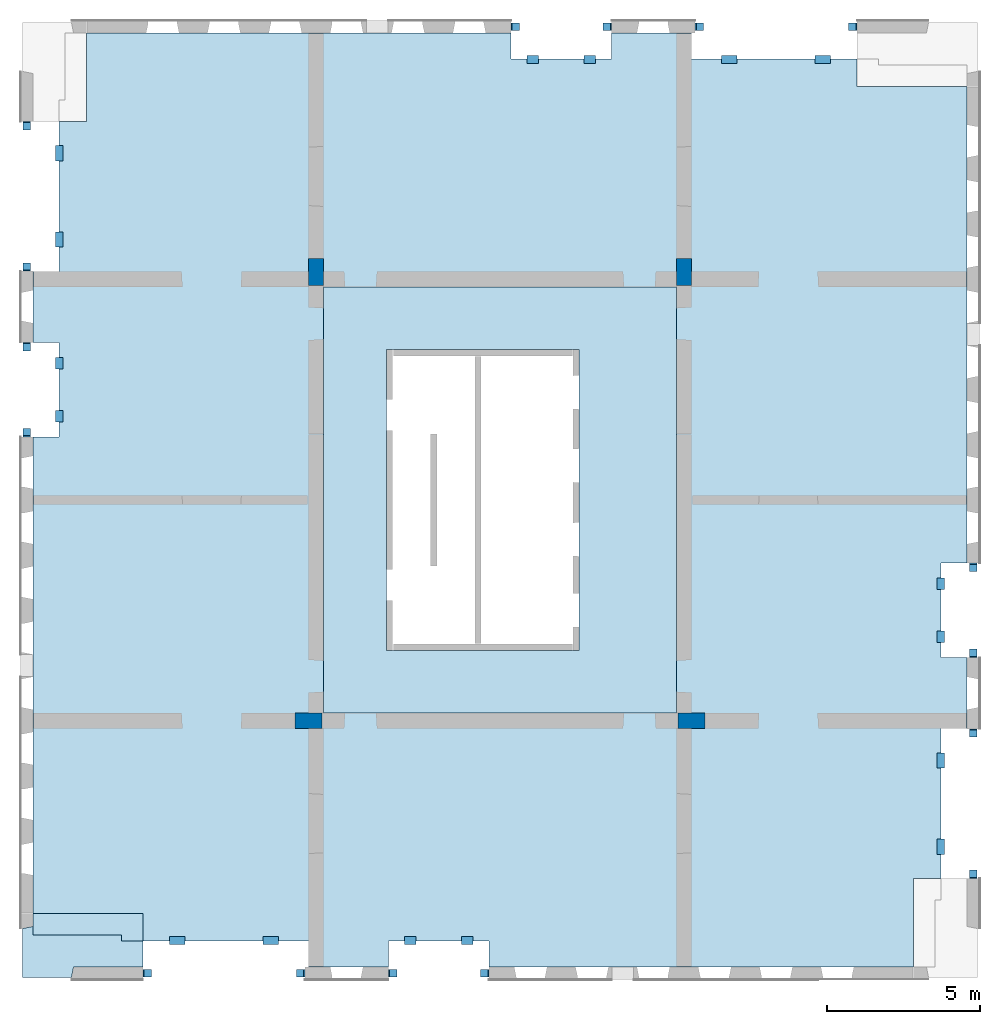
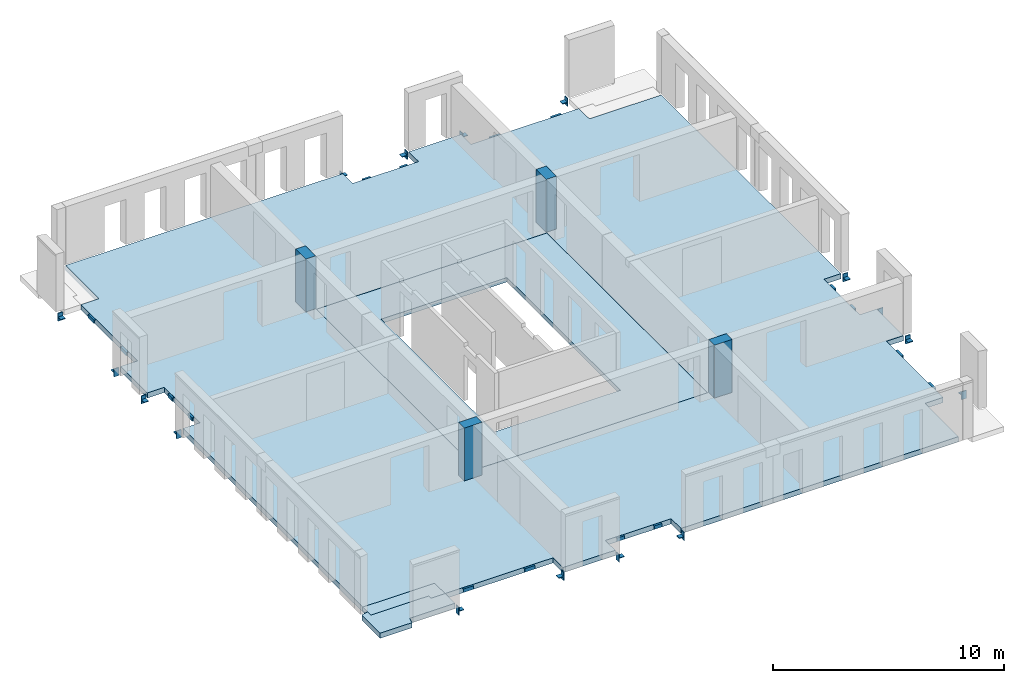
# One storey, part 1 of 5: 32 beams, 4 columns, 4 slabs, 2 openings.
"""IFC2X3 building model written with IfcOpenShell, lengths in millimetres."""

from ifc_helpers import new_model, entity, si_unit, converted_unit, derived_unit, direction, frame, frame_2d, origin, origin_2d_with_axis, place, context, subcontext, project, spatial, polyline, rectangle, outline, extrude, source, transform, mapped, material, layer, layer_set, layer_usage, type_object, type_shapes, element, save


model = new_model("IFC2X3")

# Units and contexts
model_context = context("Model", 3, precision=0.01, world=origin(), true_north=direction((6.12303176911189e-17, 1.0)))
body_context = subcontext(model_context, "Body", "Model", "MODEL_VIEW")
ifc_project = project(units=[si_unit("LENGTHUNIT", "METRE", prefix="MILLI"), si_unit("AREAUNIT", "SQUARE_METRE"), si_unit("VOLUMEUNIT", "CUBIC_METRE"), converted_unit("PLANEANGLEUNIT", "DEGREE", entity("IfcRatioMeasure", 0.0174532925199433), si_unit("PLANEANGLEUNIT", "RADIAN"), dimensions=[0, 0, 0, 0, 0, 0, 0]), si_unit("MASSUNIT", "GRAM", prefix="KILO"), derived_unit("MASSDENSITYUNIT", [(si_unit("MASSUNIT", "GRAM", prefix="KILO"), 1), (si_unit("LENGTHUNIT", "METRE"), -3)]), si_unit("TIMEUNIT", "SECOND"), si_unit("FREQUENCYUNIT", "HERTZ"), si_unit("THERMODYNAMICTEMPERATUREUNIT", "DEGREE_CELSIUS"), derived_unit("THERMALTRANSMITTANCEUNIT", [(si_unit("MASSUNIT", "GRAM", prefix="KILO"), 1), (si_unit("THERMODYNAMICTEMPERATUREUNIT", "KELVIN"), -1), (si_unit("TIMEUNIT", "SECOND"), -3)]), derived_unit("VOLUMETRICFLOWRATEUNIT", [(si_unit("LENGTHUNIT", "METRE"), 3), (si_unit("TIMEUNIT", "SECOND"), -1)]), si_unit("ELECTRICCURRENTUNIT", "AMPERE"), si_unit("ELECTRICVOLTAGEUNIT", "VOLT"), si_unit("POWERUNIT", "WATT"), si_unit("FORCEUNIT", "NEWTON", prefix="KILO"), si_unit("ILLUMINANCEUNIT", "LUX"), si_unit("LUMINOUSFLUXUNIT", "LUMEN"), si_unit("LUMINOUSINTENSITYUNIT", "CANDELA"), derived_unit("USERDEFINED", [(si_unit("MASSUNIT", "GRAM", prefix="KILO"), -1), (si_unit("LENGTHUNIT", "METRE"), -2), (si_unit("TIMEUNIT", "SECOND"), 3), (si_unit("LUMINOUSFLUXUNIT", "LUMEN"), 1)]), derived_unit("LINEARVELOCITYUNIT", [(si_unit("LENGTHUNIT", "METRE"), 1), (si_unit("TIMEUNIT", "SECOND"), -1)]), si_unit("PRESSUREUNIT", "PASCAL"), derived_unit("USERDEFINED", [(si_unit("LENGTHUNIT", "METRE"), -2), (si_unit("MASSUNIT", "GRAM", prefix="KILO"), 1), (si_unit("TIMEUNIT", "SECOND"), -2)])], contexts=[model_context])

# Site, building, storey
site_placement = place(None, origin())
site = spatial("IfcSite", under=ifc_project, at=site_placement, Name="Default", CompositionType="ELEMENT")
building_placement = place(site_placement, origin())
building = spatial("IfcBuilding", under=site, at=building_placement, Name="niet gebruiken", CompositionType="ELEMENT")
storey_placement = place(building_placement, frame((0.0, 0.0, 27180.0)))
storey = spatial("IfcBuildingStorey", under=building, at=storey_placement, Name="08 achtste verdieping", CompositionType="ELEMENT", Elevation=27180.0)

# Columns
ifc_material_1 = material(Name="NLRS_f2_beton ihwg")
column_type_1 = type_object("IfcColumnType", Name="500x880", PredefinedType="COLUMN", material=ifc_material_1)
shared_shape_1 = source(origin(), body_context, "Body", "SweptSolid", [
    extrude(rectangle(XDim=879.999999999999, YDim=500.000000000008, at=origin_2d_with_axis()), frame((135750.003540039, 24940.0, 27090.0), z_axis=(0.0, 0.0, 1.0), x_axis=(0.0, -1.0, 0.0)), (0.0, 0.0, 1.0), 2790.00000000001),
])
type_shapes(column_type_1, [shared_shape_1])
column_1_placement = place(storey_placement, frame((0.0, 0.0, -27180.0)))
element("IfcColumn", 1, at=column_1_placement, inside=storey, type_object=column_type_1, material=ifc_material_1, Name="NLRS_28.11_SCO_TLB_beton kolom ihwg_gen:500x880", ObjectType="500x880", context=body_context, shape_type="MappedRepresentation", body=[
    mapped(shared_shape_1, transform((0.0, 0.0, 0.0), scale=1.0)),
])
column_type_2 = type_object("IfcColumnType", Name="500x880", PredefinedType="COLUMN", material=ifc_material_1)
shared_shape_2 = source(origin(), body_context, "Body", "SweptSolid", [
    extrude(rectangle(XDim=879.999999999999, YDim=500.000000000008, at=origin_2d_with_axis()), frame((147750.0, 24940.0, 27090.0), z_axis=(0.0, 0.0, 1.0), x_axis=(0.0, -1.0, 0.0)), (0.0, 0.0, 1.0), 2790.00000000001),
])
type_shapes(column_type_2, [shared_shape_2])
column_2_placement = place(storey_placement, frame((0.0, 0.0, -27180.0)))
element("IfcColumn", 2, at=column_2_placement, inside=storey, type_object=column_type_2, material=ifc_material_1, Name="NLRS_28.11_SCO_TLB_beton kolom ihwg_gen:500x880", ObjectType="500x880", context=body_context, shape_type="MappedRepresentation", body=[
    mapped(shared_shape_2, transform((0.0, 0.0, 0.0), scale=1.0)),
])
column_type_3 = type_object("IfcColumnType", Name="500x880", PredefinedType="COLUMN", material=ifc_material_1)
shared_shape_3 = source(origin(), body_context, "Body", "SweptSolid", [
    extrude(rectangle(XDim=500.000000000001, YDim=880.000000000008, at=origin_2d_with_axis()), frame((135510.003540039, 10300.0115507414, 27090.0), z_axis=(0.0, 0.0, 1.0), x_axis=(0.0, -1.0, 0.0)), (0.0, 0.0, 1.0), 2790.00000000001),
])
type_shapes(column_type_3, [shared_shape_3])
column_3_placement = place(storey_placement, frame((0.0, 0.0, -27180.0)))
element("IfcColumn", 3, at=column_3_placement, inside=storey, type_object=column_type_3, material=ifc_material_1, Name="NLRS_28.11_SCO_TLB_beton kolom ihwg_gen:500x880", ObjectType="500x880", context=body_context, shape_type="MappedRepresentation", body=[
    mapped(shared_shape_3, transform((0.0, 0.0, 0.0), scale=1.0)),
])
column_type_4 = type_object("IfcColumnType", Name="500x880", PredefinedType="COLUMN", material=ifc_material_1)
shared_shape_4 = source(origin(), body_context, "Body", "SweptSolid", [
    extrude(rectangle(XDim=500.000000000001, YDim=880.000000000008, at=origin_2d_with_axis()), frame((147990.0, 10300.0, 27090.0), z_axis=(0.0, 0.0, 1.0), x_axis=(0.0, -1.0, 0.0)), (0.0, 0.0, 1.0), 2790.00000000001),
])
type_shapes(column_type_4, [shared_shape_4])
column_4_placement = place(storey_placement, frame((0.0, 0.0, -27180.0)))
element("IfcColumn", 4, at=column_4_placement, inside=storey, type_object=column_type_4, material=ifc_material_1, Name="NLRS_28.11_SCO_TLB_beton kolom ihwg_gen:500x880", ObjectType="500x880", context=body_context, shape_type="MappedRepresentation", body=[
    mapped(shared_shape_4, transform((0.0, 0.0, 0.0), scale=1.0)),
])

# Beams
ifc_material_2 = material(Name="NLRS_h2_staal")
beam_type_1 = type_object("IfcBeamType", Name="NLRS_28.11_SF_WPB_stalen schoen 1_gen", PredefinedType="BEAM", material=ifc_material_2)
shared_shape_5 = source(origin(), body_context, "Body", "SweptSolid", [
    extrude(outline(polyline([(-39.5000000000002, -20.5000000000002), (-1.50000000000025, -20.5000000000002), (20.5000000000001, 1.50000000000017), (20.5000000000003, 39.5000000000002), (-39.5000000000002, -20.5000000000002)])), frame((-77.5000000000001, -84.4999999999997, -55.5000000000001), z_axis=(1.0, 0.0, 0.0), x_axis=(0.0, -1.0, 0.0)), (0.0, 0.0, 1.0), 35.0),
    extrude(outline(polyline([(-39.5000000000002, -20.5000000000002), (-1.50000000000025, -20.5000000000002), (20.5000000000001, 1.50000000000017), (20.5000000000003, 39.5000000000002), (-39.5000000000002, -20.5000000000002)])), frame((42.5000000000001, -84.4999999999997, -55.5000000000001), z_axis=(1.0, 0.0, 0.0), x_axis=(0.0, -1.0, 0.0)), (0.0, 0.0, 1.0), 35.0),
    extrude(rectangle(XDim=235.0, YDim=34.9999999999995, at=frame_2d((0.0, 8.88178419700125e-15), x_axis=(1.0, 0.0))), frame((0.0, -122.5, -230.0), z_axis=(0.0, 0.0, 1.0), x_axis=(-1.0, 0.0, 0.0)), (0.0, 0.0, 1.0), 420.0),
    extrude(rectangle(XDim=235.0, YDim=240.0, at=origin_2d_with_axis()), frame((0.0, 15.0, -35.0), z_axis=(0.0, 0.0, 1.0), x_axis=(-1.0, 0.0, 0.0)), (0.0, 0.0, 1.0), 35.0),
])
type_shapes(beam_type_1, [shared_shape_5])
beam_1_placement = place(storey_placement, frame((157180.0, 12500.0, -310.0)))
element("IfcBeam", 5, at=beam_1_placement, inside=storey, type_object=beam_type_1, material=ifc_material_2, Name="NLRS_28.11_SF_WPB_stalen schoen 1_gen:NLRS_28.11_SF_WPB_stalen schoen 1_gen", ObjectType="NLRS_28.11_SF_WPB_stalen schoen 1_gen", context=body_context, shape_type="MappedRepresentation", body=[
    mapped(shared_shape_5, transform((0.0, 0.0, 0.0), scale=1.0)),
])
for number, where, z_axis, x_axis, name in (
    (6, (126320.0, 22500.0, -310.0), (0.0, 0.0, 1.0), (-1.0, 0.0, 0.0), "NLRS_28.11_SF_WPB_stalen schoen 1_gen:NLRS_28.11_SF_WPB_stalen schoen 1_gen"),
    (7, (157180.0, 15300.0, -310.0), (0.0, 0.0, 1.0), (-1.0, 0.0, 0.0), "NLRS_28.11_SF_WPB_stalen schoen 1_gen:NLRS_28.11_SF_WPB_stalen schoen 1_gen"),
):
    element("IfcBeam", number, at=place(storey_placement, frame(where, z_axis=z_axis, x_axis=x_axis)), inside=storey, type_object=beam_type_1, material=ifc_material_2, Name=name, ObjectType="NLRS_28.11_SF_WPB_stalen schoen 1_gen", context=body_context, shape_type="MappedRepresentation", body=[
        mapped(shared_shape_5, transform((0.0, 0.0, 0.0), scale=1.0)),
    ])
beam_2_placement = place(storey_placement, frame((126320.0, 19700.0, -310.0)))
element("IfcBeam", 8, at=beam_2_placement, inside=storey, type_object=beam_type_1, material=ifc_material_2, Name="NLRS_28.11_SF_WPB_stalen schoen 1_gen:NLRS_28.11_SF_WPB_stalen schoen 1_gen", ObjectType="NLRS_28.11_SF_WPB_stalen schoen 1_gen", context=body_context, shape_type="MappedRepresentation", body=[
    mapped(shared_shape_5, transform((0.0, 0.0, 0.0), scale=1.0)),
])
for number, where, z_axis, x_axis, name in (
    (9, (138250.0, 2070.0, -310.0), (0.0, 0.0, 1.0), (0.0, -1.0, 0.0), "NLRS_28.11_SF_WPB_stalen schoen 1_gen:NLRS_28.11_SF_WPB_stalen schoen 1_gen"),
    (10, (141250.0, 2070.0, -310.0), (0.0, 0.0, 1.0), (0.0, 1.0, 0.0), "NLRS_28.11_SF_WPB_stalen schoen 1_gen:NLRS_28.11_SF_WPB_stalen schoen 1_gen"),
    (11, (145250.0, 32930.0, -310.0), (0.0, 0.0, 1.0), (0.0, 1.0, 0.0), "NLRS_28.11_SF_WPB_stalen schoen 1_gen:NLRS_28.11_SF_WPB_stalen schoen 1_gen"),
    (12, (142250.0, 32930.0, -310.0), (0.0, 0.0, 1.0), (0.0, -1.0, 0.0), "NLRS_28.11_SF_WPB_stalen schoen 1_gen:NLRS_28.11_SF_WPB_stalen schoen 1_gen"),
):
    element("IfcBeam", number, at=place(storey_placement, frame(where, z_axis=z_axis, x_axis=x_axis)), inside=storey, type_object=beam_type_1, material=ifc_material_2, Name=name, ObjectType="NLRS_28.11_SF_WPB_stalen schoen 1_gen", context=body_context, shape_type="MappedRepresentation", body=[
        mapped(shared_shape_5, transform((0.0, 0.0, 0.0), scale=1.0)),
    ])
beam_type_2 = type_object("IfcBeamType", Name="NLRS_28.11_SF_WPB_stalen schoen 2_gen", PredefinedType="BEAM", material=ifc_material_2)
shared_shape_6 = source(origin(), body_context, "Body", "SweptSolid", [
    extrude(outline(polyline([(-39.5000000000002, -20.5000000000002), (-1.50000000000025, -20.5000000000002), (20.5000000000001, 1.50000000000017), (20.5000000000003, 39.5000000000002), (-39.5000000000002, -20.5000000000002)])), frame((-77.5000000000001, -79.4999999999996, -60.5000000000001), z_axis=(1.0, 0.0, 0.0), x_axis=(0.0, -1.0, 0.0)), (0.0, 0.0, 1.0), 35.0),
    extrude(outline(polyline([(-39.5000000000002, -20.5000000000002), (-1.50000000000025, -20.5000000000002), (20.5000000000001, 1.50000000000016), (20.5000000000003, 39.5000000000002), (-39.5000000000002, -20.5000000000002)])), frame((42.5000000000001, -79.4999999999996, -60.5000000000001), z_axis=(1.0, 0.0, 0.0), x_axis=(0.0, -1.0, 0.0)), (0.0, 0.0, 1.0), 35.0),
    extrude(rectangle(XDim=235.0, YDim=39.9999999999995, at=frame_2d((0.0, 8.88178419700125e-15), x_axis=(1.0, 0.0))), frame((0.0, -120.0, -230.0), z_axis=(0.0, 0.0, 1.0), x_axis=(-1.0, 0.0, 0.0)), (0.0, 0.0, 1.0), 420.0),
    extrude(rectangle(XDim=235.0, YDim=235.0, at=origin_2d_with_axis()), frame((0.0, 17.5000000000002, -40.0), z_axis=(0.0, 0.0, 1.0), x_axis=(-1.0, 0.0, 0.0)), (0.0, 0.0, 1.0), 39.9999999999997),
])
type_shapes(beam_type_2, [shared_shape_6])
beam_3_placement = place(storey_placement, frame((157180.0, 9900.0, -310.0), z_axis=(0.0, 0.0, 1.0), x_axis=(-1.0, 0.0, 0.0)))
element("IfcBeam", 13, at=beam_3_placement, inside=storey, type_object=beam_type_2, material=ifc_material_2, Name="NLRS_28.11_SF_WPB_stalen schoen 2_gen:NLRS_28.11_SF_WPB_stalen schoen 2_gen", ObjectType="NLRS_28.11_SF_WPB_stalen schoen 2_gen", context=body_context, shape_type="MappedRepresentation", body=[
    mapped(shared_shape_6, transform((0.0, 0.0, 0.0), scale=1.0)),
])
for number, where, name in (
    (14, (157180.0, 5300.0, -310.0), "NLRS_28.11_SF_WPB_stalen schoen 2_gen:NLRS_28.11_SF_WPB_stalen schoen 2_gen"),
    (15, (126320.0, 25100.0, -310.0), "NLRS_28.11_SF_WPB_stalen schoen 2_gen:NLRS_28.11_SF_WPB_stalen schoen 2_gen"),
):
    element("IfcBeam", number, at=place(storey_placement, frame(where)), inside=storey, type_object=beam_type_2, material=ifc_material_2, Name=name, ObjectType="NLRS_28.11_SF_WPB_stalen schoen 2_gen", context=body_context, shape_type="MappedRepresentation", body=[
        mapped(shared_shape_6, transform((0.0, 0.0, 0.0), scale=1.0)),
    ])
for number, where, z_axis, x_axis, name in (
    (16, (126320.0, 29700.0, -310.0), (0.0, 0.0, 1.0), (-1.0, 0.0, 0.0), "NLRS_28.11_SF_WPB_stalen schoen 2_gen:NLRS_28.11_SF_WPB_stalen schoen 2_gen"),
    (17, (135250.0, 2070.0, -310.0), (0.0, 0.0, 1.0), (0.0, 1.0, 0.0), "NLRS_28.11_SF_WPB_stalen schoen 2_gen:NLRS_28.11_SF_WPB_stalen schoen 2_gen"),
    (18, (130250.0, 2070.0, -310.0), (0.0, 0.0, 1.0), (0.0, -1.0, 0.0), "NLRS_28.11_SF_WPB_stalen schoen 2_gen:NLRS_28.11_SF_WPB_stalen schoen 2_gen"),
    (19, (148250.0, 32930.0, -310.0), (0.0, 0.0, 1.0), (0.0, -1.0, 0.0), "NLRS_28.11_SF_WPB_stalen schoen 2_gen:NLRS_28.11_SF_WPB_stalen schoen 2_gen"),
    (20, (153250.0, 32930.0, -310.0), (0.0, 0.0, 1.0), (0.0, 1.0, 0.0), "NLRS_28.11_SF_WPB_stalen schoen 2_gen:NLRS_28.11_SF_WPB_stalen schoen 2_gen"),
):
    element("IfcBeam", number, at=place(storey_placement, frame(where, z_axis=z_axis, x_axis=x_axis)), inside=storey, type_object=beam_type_2, material=ifc_material_2, Name=name, ObjectType="NLRS_28.11_SF_WPB_stalen schoen 2_gen", context=body_context, shape_type="MappedRepresentation", body=[
        mapped(shared_shape_6, transform((0.0, 0.0, 0.0), scale=1.0)),
    ])
beam_type_3 = type_object("IfcBeamType", Name="NLRS_28.11_SF_WPB_stalen handje 7 lang 375_gen:NLRS_28.11_SF_WPB_stalen handje 7_gen", PredefinedType="BEAM")
beam_4_placement = place(storey_placement, frame((156235.125015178, 9255.24886461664, -93.0), z_axis=(0.0, 0.0, 1.0), x_axis=(0.0, -1.0, 0.0)))
element("IfcBeam", 21, at=beam_4_placement, inside=storey, type_object=beam_type_3, material=ifc_material_2, Name="NLRS_28.11_SF_WPB_stalen handje 7 lang 375_gen:NLRS_28.11_SF_WPB_stalen handje 7_gen", ObjectType="NLRS_28.11_SF_WPB_stalen handje 7 lang 375_gen:NLRS_28.11_SF_WPB_stalen handje 7_gen", context=body_context, shape_type="SweptSolid", body=[
    extrude(outline(polyline([(-70.6666666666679, -153.333333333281), (-40.6666666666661, -153.333333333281), (-40.6666666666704, 61.6666666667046), (111.33333333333, 61.6666666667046), (111.33333333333, 91.6666666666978), (-70.6666666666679, 91.6666666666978), (-70.6666666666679, -153.333333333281)])), frame((0.0, -91.6666666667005, -70.6666666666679), z_axis=(1.0, 0.0, 0.0), x_axis=(0.0, 0.0, -1.0)), (0.0, 0.0, 1.0), 500.000000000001),
])
beam_5_placement = place(storey_placement, frame((156235.125015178, 6445.2458243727, -93.0), z_axis=(0.0, 0.0, 1.0), x_axis=(0.0, -1.0, 0.0)))
element("IfcBeam", 22, at=beam_5_placement, inside=storey, type_object=beam_type_3, material=ifc_material_2, Name="NLRS_28.11_SF_WPB_stalen handje 7 lang 375_gen:NLRS_28.11_SF_WPB_stalen handje 7_gen", ObjectType="NLRS_28.11_SF_WPB_stalen handje 7 lang 375_gen:NLRS_28.11_SF_WPB_stalen handje 7_gen", context=body_context, shape_type="SweptSolid", body=[
    extrude(outline(polyline([(-70.6666666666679, -153.33333333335), (-40.6666666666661, -153.33333333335), (-40.6666666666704, 61.6666666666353), (111.33333333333, 61.6666666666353), (111.33333333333, 91.6666666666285), (-70.6666666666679, 91.6666666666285), (-70.6666666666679, -153.33333333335)])), frame((0.0, -91.6666666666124, -70.6666666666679), z_axis=(1.0, 0.0, 0.0), x_axis=(0.0, 0.0, -1.0)), (0.0, 0.0, 1.0), 500.000000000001),
])
beam_6_placement = place(storey_placement, frame((127264.874984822, 25744.7511353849, -93.0), z_axis=(0.0, 0.0, 1.0), x_axis=(0.0, 1.0, 0.0)))
element("IfcBeam", 23, at=beam_6_placement, inside=storey, type_object=beam_type_3, material=ifc_material_2, Name="NLRS_28.11_SF_WPB_stalen handje 7 lang 375_gen:NLRS_28.11_SF_WPB_stalen handje 7_gen", ObjectType="NLRS_28.11_SF_WPB_stalen handje 7 lang 375_gen:NLRS_28.11_SF_WPB_stalen handje 7_gen", context=body_context, shape_type="SweptSolid", body=[
    extrude(outline(polyline([(-70.6666666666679, -153.333333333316), (-40.6666666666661, -153.333333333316), (-40.6666666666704, 61.66666666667), (111.33333333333, 61.66666666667), (111.33333333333, 91.6666666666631), (-70.6666666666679, 91.6666666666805), (-70.6666666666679, -153.333333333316)])), frame((0.0, -91.6666666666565, -70.6666666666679), z_axis=(1.0, 0.0, 0.0), x_axis=(0.0, 0.0, -1.0)), (0.0, 0.0, 1.0), 500.0),
])
beam_7_placement = place(storey_placement, frame((127264.874984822, 28554.7541756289, -93.0), z_axis=(0.0, 0.0, 1.0), x_axis=(0.0, 1.0, 0.0)))
element("IfcBeam", 24, at=beam_7_placement, inside=storey, type_object=beam_type_3, material=ifc_material_2, Name="NLRS_28.11_SF_WPB_stalen handje 7 lang 375_gen:NLRS_28.11_SF_WPB_stalen handje 7_gen", ObjectType="NLRS_28.11_SF_WPB_stalen handje 7 lang 375_gen:NLRS_28.11_SF_WPB_stalen handje 7_gen", context=body_context, shape_type="SweptSolid", body=[
    extrude(outline(polyline([(-70.6666666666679, -153.333333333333), (-40.6666666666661, -153.333333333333), (-40.6666666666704, 61.6666666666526), (111.33333333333, 61.6666666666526), (111.33333333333, 91.6666666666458), (-70.6666666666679, 91.6666666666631), (-70.6666666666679, -153.333333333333)])), frame((0.0, -91.6666666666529, -70.6666666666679), z_axis=(1.0, 0.0, 0.0), x_axis=(0.0, 0.0, -1.0)), (0.0, 0.0, 1.0), 500.0),
])
for number, where, z_axis, x_axis, name in (
    (25, (140862.631597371, 3015.23611279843, -93.0), (0.0, 0.0, 1.0), (-1.0, 0.0, 0.0), "NLRS_28.11_SF_WPB_stalen handje 7 lang 375_gen:NLRS_28.11_SF_WPB_stalen handje 7_gen"),
    (26, (139012.628555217, 3015.23611279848, -93.0), (0.0, 0.0, 1.0), (-1.0, 0.0, 0.0), "NLRS_28.11_SF_WPB_stalen handje 7 lang 375_gen:NLRS_28.11_SF_WPB_stalen handje 7_gen"),
):
    element("IfcBeam", number, at=place(storey_placement, frame(where, z_axis=z_axis, x_axis=x_axis)), inside=storey, type_object=beam_type_3, material=ifc_material_2, Name=name, ObjectType="NLRS_28.11_SF_WPB_stalen handje 7 lang 375_gen:NLRS_28.11_SF_WPB_stalen handje 7_gen", context=body_context, shape_type="SweptSolid", body=[
        extrude(outline(polyline([(-70.6666666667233, -153.333333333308), (-40.6666666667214, -153.333333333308), (-40.6666666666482, 61.6666666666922), (111.333333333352, 61.6666666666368), (111.333333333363, 91.6666666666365), (-70.6666666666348, 91.6666666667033), (-70.6666666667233, -153.333333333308)])), frame((0.0, -91.6666666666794, -70.6666666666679), z_axis=(1.0, 0.0, 0.0), x_axis=(0.0, 0.0, -1.0)), (0.0, 0.0, 1.0), 375.000000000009),
    ])
for number, where, z_axis, x_axis, name in (
    (27, (134525.131597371, 3015.2361127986, -93.0), (0.0, 0.0, 1.0), (-1.0, 0.0, 0.0), "NLRS_28.11_SF_WPB_stalen handje 7 lang 375_gen:NLRS_28.11_SF_WPB_stalen handje 7_gen"),
    (28, (131475.128555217, 3015.23611279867, -93.0), (0.0, 0.0, 1.0), (-1.0, 0.0, 0.0), "NLRS_28.11_SF_WPB_stalen handje 7 lang 375_gen:NLRS_28.11_SF_WPB_stalen handje 7_gen"),
):
    element("IfcBeam", number, at=place(storey_placement, frame(where, z_axis=z_axis, x_axis=x_axis)), inside=storey, type_object=beam_type_3, material=ifc_material_2, Name=name, ObjectType="NLRS_28.11_SF_WPB_stalen handje 7 lang 375_gen:NLRS_28.11_SF_WPB_stalen handje 7_gen", context=body_context, shape_type="SweptSolid", body=[
        extrude(outline(polyline([(-70.6666666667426, -153.333333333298), (-40.6666666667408, -153.333333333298), (-40.6666666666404, 61.6666666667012), (111.33333333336, 61.6666666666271), (111.333333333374, 91.6666666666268), (-70.6666666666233, 91.666666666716), (-70.6666666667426, -153.333333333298)])), frame((0.0, -91.6666666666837, -70.6666666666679), z_axis=(1.0, 0.0, 0.0), x_axis=(0.0, 0.0, -1.0)), (0.0, 0.0, 1.0), 500.000000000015),
    ])
beam_8_placement = place(storey_placement, frame((142637.368402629, 31984.7638872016, -93.0)))
element("IfcBeam", 29, at=beam_8_placement, inside=storey, type_object=beam_type_3, material=ifc_material_2, Name="NLRS_28.11_SF_WPB_stalen handje 7 lang 375_gen:NLRS_28.11_SF_WPB_stalen handje 7_gen", ObjectType="NLRS_28.11_SF_WPB_stalen handje 7 lang 375_gen:NLRS_28.11_SF_WPB_stalen handje 7_gen", context=body_context, shape_type="SweptSolid", body=[
    extrude(outline(polyline([(-70.6666666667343, -153.333333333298), (-40.6666666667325, -153.333333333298), (-40.6666666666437, 61.6666666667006), (111.333333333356, 61.6666666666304), (111.333333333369, 91.6666666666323), (-70.6666666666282, 91.6666666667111), (-70.6666666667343, -153.333333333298)])), frame((0.0, -91.6666666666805, -70.6666666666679), z_axis=(1.0, 0.0, 0.0), x_axis=(0.0, 0.0, -1.0)), (0.0, 0.0, 1.0), 375.000000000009),
])
beam_9_placement = place(storey_placement, frame((144487.371444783, 31984.7638872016, -93.0)))
element("IfcBeam", 30, at=beam_9_placement, inside=storey, type_object=beam_type_3, material=ifc_material_2, Name="NLRS_28.11_SF_WPB_stalen handje 7 lang 375_gen:NLRS_28.11_SF_WPB_stalen handje 7_gen", ObjectType="NLRS_28.11_SF_WPB_stalen handje 7 lang 375_gen:NLRS_28.11_SF_WPB_stalen handje 7_gen", context=body_context, shape_type="SweptSolid", body=[
    extrude(outline(polyline([(-70.6666666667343, -153.333333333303), (-40.6666666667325, -153.333333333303), (-40.6666666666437, 61.6666666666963), (111.333333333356, 61.6666666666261), (111.333333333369, 91.6666666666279), (-70.6666666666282, 91.6666666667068), (-70.6666666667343, -153.333333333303)])), frame((0.0, -91.6666666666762, -70.6666666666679), z_axis=(1.0, 0.0, 0.0), x_axis=(0.0, 0.0, -1.0)), (0.0, 0.0, 1.0), 375.000000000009),
])
beam_10_placement = place(storey_placement, frame((148974.868402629, 31984.7638872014, -93.0)))
element("IfcBeam", 31, at=beam_10_placement, inside=storey, type_object=beam_type_3, material=ifc_material_2, Name="NLRS_28.11_SF_WPB_stalen handje 7 lang 375_gen:NLRS_28.11_SF_WPB_stalen handje 7_gen", ObjectType="NLRS_28.11_SF_WPB_stalen handje 7 lang 375_gen:NLRS_28.11_SF_WPB_stalen handje 7_gen", context=body_context, shape_type="SweptSolid", body=[
    extrude(outline(polyline([(-70.6666666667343, -153.333333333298), (-40.6666666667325, -153.333333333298), (-40.6666666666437, 61.6666666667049), (111.333333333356, 61.6666666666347), (111.333333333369, 91.6666666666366), (-70.6666666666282, 91.6666666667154), (-70.6666666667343, -153.333333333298)])), frame((0.0, -91.6666666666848, -70.6666666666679), z_axis=(1.0, 0.0, 0.0), x_axis=(0.0, 0.0, -1.0)), (0.0, 0.0, 1.0), 500.000000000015),
])
beam_11_placement = place(storey_placement, frame((152024.871444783, 31984.7638872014, -93.0)))
element("IfcBeam", 32, at=beam_11_placement, inside=storey, type_object=beam_type_3, material=ifc_material_2, Name="NLRS_28.11_SF_WPB_stalen handje 7 lang 375_gen:NLRS_28.11_SF_WPB_stalen handje 7_gen", ObjectType="NLRS_28.11_SF_WPB_stalen handje 7 lang 375_gen:NLRS_28.11_SF_WPB_stalen handje 7_gen", context=body_context, shape_type="SweptSolid", body=[
    extrude(outline(polyline([(-70.6666666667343, -153.333333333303), (-40.6666666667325, -153.333333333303), (-40.6666666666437, 61.6666666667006), (111.333333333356, 61.6666666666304), (111.333333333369, 91.6666666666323), (-70.6666666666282, 91.6666666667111), (-70.6666666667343, -153.333333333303)])), frame((0.0, -91.6666666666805, -70.6666666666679), z_axis=(1.0, 0.0, 0.0), x_axis=(0.0, 0.0, -1.0)), (0.0, 0.0, 1.0), 500.000000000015),
])
beam_12_placement = place(storey_placement, frame((156235.0, 14952.5097115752, -93.0), z_axis=(0.0, 0.0, 1.0), x_axis=(0.0, -1.0, 0.0)))
element("IfcBeam", 33, at=beam_12_placement, inside=storey, type_object=beam_type_3, material=ifc_material_2, Name="NLRS_28.11_SF_WPB_stalen handje 7 lang 375_gen:NLRS_28.11_SF_WPB_stalen handje 7_gen", ObjectType="NLRS_28.11_SF_WPB_stalen handje 7 lang 375_gen:NLRS_28.11_SF_WPB_stalen handje 7_gen", context=body_context, shape_type="SweptSolid", body=[
    extrude(outline(polyline([(-70.6666666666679, -153.333333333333), (-40.6666666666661, -153.333333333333), (-40.6666666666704, 61.66666666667), (111.33333333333, 61.66666666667), (111.33333333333, 91.6666666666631), (-70.6666666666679, 91.6666666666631), (-70.6666666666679, -153.333333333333)])), frame((0.0, -91.6666666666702, -70.6666666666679), z_axis=(1.0, 0.0, 0.0), x_axis=(0.0, 0.0, -1.0)), (0.0, 0.0, 1.0), 375.000000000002),
])
beam_13_placement = place(storey_placement, frame((156235.0, 13222.5097115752, -93.0), z_axis=(0.0, 0.0, 1.0), x_axis=(0.0, -1.0, 0.0)))
element("IfcBeam", 34, at=beam_13_placement, inside=storey, type_object=beam_type_3, material=ifc_material_2, Name="NLRS_28.11_SF_WPB_stalen handje 7 lang 375_gen:NLRS_28.11_SF_WPB_stalen handje 7_gen", ObjectType="NLRS_28.11_SF_WPB_stalen handje 7 lang 375_gen:NLRS_28.11_SF_WPB_stalen handje 7_gen", context=body_context, shape_type="SweptSolid", body=[
    extrude(outline(polyline([(-70.6666666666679, -153.333333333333), (-40.6666666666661, -153.333333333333), (-40.6666666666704, 61.66666666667), (111.33333333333, 61.66666666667), (111.33333333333, 91.6666666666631), (-70.6666666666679, 91.6666666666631), (-70.6666666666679, -153.333333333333)])), frame((0.0, -91.666666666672, -70.6666666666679), z_axis=(1.0, 0.0, 0.0), x_axis=(0.0, 0.0, -1.0)), (0.0, 0.0, 1.0), 375.000000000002),
])
beam_14_placement = place(storey_placement, frame((127265.0, 20047.4902884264, -93.0), z_axis=(0.0, 0.0, 1.0), x_axis=(0.0, 1.0, 0.0)))
element("IfcBeam", 35, at=beam_14_placement, inside=storey, type_object=beam_type_3, material=ifc_material_2, Name="NLRS_28.11_SF_WPB_stalen handje 7 lang 375_gen:NLRS_28.11_SF_WPB_stalen handje 7_gen", ObjectType="NLRS_28.11_SF_WPB_stalen handje 7 lang 375_gen:NLRS_28.11_SF_WPB_stalen handje 7_gen", context=body_context, shape_type="SweptSolid", body=[
    extrude(outline(polyline([(-70.6666666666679, -153.333333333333), (-40.6666666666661, -153.333333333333), (-40.6666666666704, 61.66666666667), (111.33333333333, 61.6666666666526), (111.33333333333, 91.6666666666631), (-70.6666666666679, 91.6666666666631), (-70.6666666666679, -153.333333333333)])), frame((0.0, -91.6666666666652, -70.6666666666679), z_axis=(1.0, 0.0, 0.0), x_axis=(0.0, 0.0, -1.0)), (0.0, 0.0, 1.0), 375.000000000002),
])
beam_15_placement = place(storey_placement, frame((127265.0, 21777.4902884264, -93.0), z_axis=(0.0, 0.0, 1.0), x_axis=(0.0, 1.0, 0.0)))
element("IfcBeam", 36, at=beam_15_placement, inside=storey, type_object=beam_type_3, material=ifc_material_2, Name="NLRS_28.11_SF_WPB_stalen handje 7 lang 375_gen:NLRS_28.11_SF_WPB_stalen handje 7_gen", ObjectType="NLRS_28.11_SF_WPB_stalen handje 7 lang 375_gen:NLRS_28.11_SF_WPB_stalen handje 7_gen", context=body_context, shape_type="SweptSolid", body=[
    extrude(outline(polyline([(-70.6666666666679, -153.333333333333), (-40.6666666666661, -153.333333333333), (-40.6666666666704, 61.66666666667), (111.33333333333, 61.6666666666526), (111.33333333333, 91.6666666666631), (-70.6666666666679, 91.6666666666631), (-70.6666666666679, -153.333333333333)])), frame((0.0, -91.6666666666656, -70.6666666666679), z_axis=(1.0, 0.0, 0.0), x_axis=(0.0, 0.0, -1.0)), (0.0, 0.0, 1.0), 375.000000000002),
])

# Slabs
ifc_material_3 = material(Name="NLRS_f2_beton prefab")
ifc_layer_1 = layer(ifc_material_3, 270.0)
ifc_layer_set_1 = layer_set([ifc_layer_1], Name="Floor:NLRS_23.22_FL_beton prefab d=270 3D element_gen")
ifc_layer_usage_1 = layer_usage(ifc_layer_set_1, "AXIS3", "POSITIVE", 0.0)
slab_1_placement = place(storey_placement, origin())
element("IfcSlab", 37, at=slab_1_placement, inside=storey, material=ifc_layer_usage_1, Name="Floor:NLRS_23.22_FL_beton prefab d=270 3D element_gen", ObjectType="Floor:NLRS_23.22_FL_beton prefab d=270 3D element_gen", PredefinedType="LANDING", context=body_context, shape_type="SweptSolid", body=[
    extrude(outline(polyline([(-1010.01841692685, -1470.01841692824), (580.128918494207, -1470.01841692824), (647.981583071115, -1137.01841692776), (1072.98158307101, -1137.01841692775), (1072.981583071, 2452.9815830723), (-677.018416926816, 2452.98158307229), (-677.018416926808, 187.981583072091), (-1010.01841692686, 120.128918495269), (-1010.01841692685, -1470.01841692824)])), frame((127657.018416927, 2947.01841693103, -90.0), z_axis=(0.0, 0.0, -1.0), x_axis=(0.0, 1.0, 0.0)), (0.0, 0.0, 1.0), 269.999999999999),
])
ifc_layer_2 = layer(ifc_material_1, 170.0)
ifc_layer_set_2 = layer_set([ifc_layer_2], Name="Floor:NLRS_23.21_FL_beton ihwg d=170_gen")
ifc_layer_usage_2 = layer_usage(ifc_layer_set_2, "AXIS3", "POSITIVE", 0.0)
slab_2_placement = place(storey_placement, origin())
element("IfcSlab", 38, at=slab_2_placement, inside=storey, material=ifc_layer_usage_2, Name="Floor:NLRS_23.21_FL_beton ihwg d=170_gen", ObjectType="Floor:NLRS_23.21_FL_beton ihwg d=170_gen", PredefinedType="FLOOR", context=body_context, shape_type="SweptSolid", body=[
    extrude(outline(polyline([(-166.666666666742, -2160.0), (533.333333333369, -2160.0), (533.333333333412, 1430.0), (-366.666666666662, 1430.0), (-366.666666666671, 730.0), (-166.666666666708, 730.0), (-166.666666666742, -2160.0)])), frame((128680.0, 3486.66666666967, -90.0), z_axis=(0.0, 0.0, -1.0), x_axis=(0.0, 1.0, 0.0)), (0.0, 0.0, 1.0), 170.0),
])

# Slab, opening
ifc_layer_3 = layer(ifc_material_1, 230.0)
ifc_layer_set_3 = layer_set([ifc_layer_3], Name="Floor:NLRS_23.21_FL_vloer=230_gen")
ifc_layer_usage_3 = layer_usage(ifc_layer_set_3, "AXIS3", "POSITIVE", 0.0)
slab_3_placement = place(storey_placement, frame((136000.0, 10549.7638872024, -320.0)))
slab_3 = element("IfcSlab", 39, at=slab_3_placement, inside=storey, material=ifc_layer_usage_3, Name="Floor:NLRS_23.21_FL_vloer=230_gen", ObjectType="Floor:NLRS_23.21_FL_vloer=230_gen", PredefinedType="FLOOR", context=body_context, shape_type="SweptSolid", body=[
    extrude(rectangle(XDim=13900.2361127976, YDim=11500.0, at=frame_2d((0.0, 0.0), x_axis=(0.0, -1.0))), frame((5750.0, 6950.11805639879, 230.0), z_axis=(0.0, 0.0, -1.0), x_axis=(-1.0, 0.0, 0.0)), (0.0, 0.0, 1.0), 230.0),
])
opening_1_placement = place(slab_3_placement, frame((5190.0, 6950.23611279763, 230.0)))
element("IfcOpeningElement", 40, at=opening_1_placement, cuts=slab_3, Name="Floor:NLRS_23.21_FL_vloer=230_gen:2", ObjectType="Opening", context=body_context, shape_type="SweptSolid", body=[
    extrude(rectangle(XDim=9800.0, YDim=6279.99999999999, at=origin_2d_with_axis()), frame((0.0, 0.0, 0.0), z_axis=(0.0, 0.0, -1.0), x_axis=(0.0, -1.0, 0.0)), (0.0, 0.0, 1.0), 230.0),
])

ifc_layer_4 = layer(ifc_material_1, 170.0)
ifc_layer_5 = layer(ifc_material_3, 100.0)
ifc_layer_set_4 = layer_set([ifc_layer_4, ifc_layer_5], Name="Floor:NLRS_23.21_FL_breedplaat d=100/270_gen")
ifc_layer_usage_4 = layer_usage(ifc_layer_set_4, "AXIS3", "POSITIVE", 0.0)
slab_4_placement = place(storey_placement, frame((126520.0, 2270.0, -360.0)))
slab_4 = element("IfcSlab", 41, at=slab_4_placement, inside=storey, material=ifc_layer_usage_4, Name="Floor:NLRS_23.21_FL_breedplaat d=100/270_gen", ObjectType="Floor:NLRS_23.21_FL_breedplaat d=100/270_gen", PredefinedType="FLOOR", context=body_context, shape_type="SweptSolid", body=[
    extrude(outline(polyline([(-360.0, 15230.0), (-360.0, 14380.0), (-3640.0, 14380.0), (-3640.0, 15230.0), (-6250.0, 15230.0), (-6250.0, 14380.0), (-11640.0, 14380.0), (-11640.0, 13480.0), (-15230.0, 13480.0), (-15230.0, -2060.0), (-14380.0, -2060.0), (-14380.0, -5140.0), (-15230.0, -5140.0), (-15230.0, -7450.0), (-14380.0, -7450.0), (-14380.0, -12340.0), (-13480.0, -12340.0), (-13480.0, -15230.0), (360.0, -15230.0), (360.0, -14380.0), (3640.0, -14380.0), (3640.0, -15230.0), (6250.0, -15230.0), (6250.0, -14380.0), (11640.0, -14380.0), (11640.0, -13480.0), (15230.0, -13480.0), (15230.0, 2060.0), (14380.0, 2060.0), (14380.0, 5140.0), (15230.0, 5140.0), (15230.0, 7450.0), (14380.0, 7450.0), (14380.0, 12340.0), (13480.0, 12340.0), (13480.0, 15230.0), (-360.0, 15230.0)])), frame((15230.0, 15230.0, 270.0), z_axis=(0.0, 0.0, -1.0), x_axis=(-1.0, 0.0, 0.0)), (0.0, 0.0, 1.0), 269.999999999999),
])
opening_2_placement = place(slab_4_placement, frame((15230.0, 15230.0, 270.0)))
element("IfcOpeningElement", 42, at=opening_2_placement, cuts=slab_4, Name="Floor:NLRS_23.21_FL_breedplaat d=100/270_gen:2", ObjectType="Opening", context=body_context, shape_type="SweptSolid", body=[
    extrude(rectangle(XDim=13899.9999999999, YDim=11500.0, at=origin_2d_with_axis()), frame((0.0, 0.0, 0.0), z_axis=(0.0, 0.0, -1.0), x_axis=(0.0, -1.0, 0.0)), (0.0, 0.0, 1.0), 269.999999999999),
])

save(model, "model.ifc")
